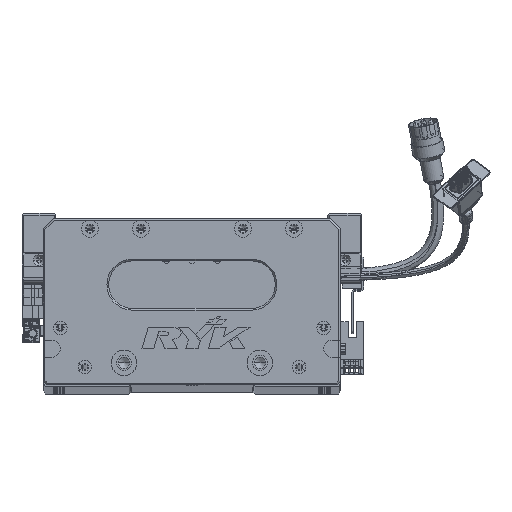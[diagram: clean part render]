
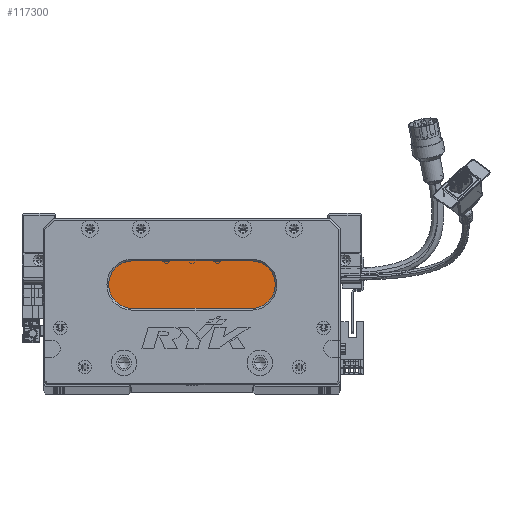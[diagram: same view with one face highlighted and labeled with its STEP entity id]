
A CAD part, top view. The second image highlights one B-rep face of the part: STEP entity #117300.
In plain terms, the highlighted planar face has unit normal (0, 0, 1) as drawn and (0, 0, -1) by its records, which use the part's own axes.
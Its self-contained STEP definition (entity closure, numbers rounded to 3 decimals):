
#1366 = VERTEX_POINT ( 'NONE', #68532 ) ;
#1863 = EDGE_CURVE ( 'NONE', #62695, #27814, #73790, .T. ) ;
#1899 = CARTESIAN_POINT ( 'NONE',  ( 122.5, 45., 18. ) ) ;
#2902 = VECTOR ( 'NONE', #48439, 1000. ) ;
#7960 = DIRECTION ( 'NONE',  ( -1., 0., 0. ) ) ;
#9712 = DIRECTION ( 'NONE',  ( -1., 0., 0. ) ) ;
#15660 = VECTOR ( 'NONE', #9712, 1000. ) ;
#17427 = DIRECTION ( 'NONE',  ( 0., 0., -1. ) ) ;
#18756 = AXIS2_PLACEMENT_3D ( 'NONE', #109269, #52184, #118874 ) ;
#20363 = CARTESIAN_POINT ( 'NONE',  ( 52.5, 73., 18. ) ) ;
#21050 = EDGE_CURVE ( 'NONE', #32450, #80066, #86011, .T. ) ;
#27121 = CARTESIAN_POINT ( 'NONE',  ( 122.5, 59., 18. ) ) ;
#27725 = EDGE_CURVE ( 'NONE', #27814, #32450, #116949, .T. ) ;
#27814 = VERTEX_POINT ( 'NONE', #82982 ) ;
#29514 = DIRECTION ( 'NONE',  ( -1., 0., 0. ) ) ;
#32450 = VERTEX_POINT ( 'NONE', #114046 ) ;
#42896 = AXIS2_PLACEMENT_3D ( 'NONE', #46635, #17427, #93709 ) ;
#45518 = PLANE ( 'NONE',  #81051 ) ;
#46008 = CARTESIAN_POINT ( 'NONE',  ( 122.5, 45., 18. ) ) ;
#46635 = CARTESIAN_POINT ( 'NONE',  ( 52.5, 59., 18. ) ) ;
#48439 = DIRECTION ( 'NONE',  ( 1., 0., 0. ) ) ;
#52184 = DIRECTION ( 'NONE',  ( 0., 0., -1. ) ) ;
#54512 = ORIENTED_EDGE ( 'NONE', *, *, #68293, .T. ) ;
#55517 = DIRECTION ( 'NONE',  ( 0., 0., -1. ) ) ;
#62695 = VERTEX_POINT ( 'NONE', #1899 ) ;
#68293 = EDGE_CURVE ( 'NONE', #80066, #1366, #120761, .T. ) ;
#68532 = CARTESIAN_POINT ( 'NONE',  ( 122.5, 73., 18. ) ) ;
#73790 = LINE ( 'NONE', #46008, #15660 ) ;
#75458 = EDGE_CURVE ( 'NONE', #1366, #62695, #89386, .T. ) ;
#75820 = CARTESIAN_POINT ( 'NONE',  ( 122.5, 59., 18. ) ) ;
#80066 = VERTEX_POINT ( 'NONE', #20363 ) ;
#81051 = AXIS2_PLACEMENT_3D ( 'NONE', #27121, #55517, #7960 ) ;
#82982 = CARTESIAN_POINT ( 'NONE',  ( 52.5, 45., 18. ) ) ;
#86011 = CIRCLE ( 'NONE', #42896, 14. ) ;
#87068 = DIRECTION ( 'NONE',  ( 0., 0., -1. ) ) ;
#89386 = CIRCLE ( 'NONE', #95038, 14. ) ;
#92718 = ORIENTED_EDGE ( 'NONE', *, *, #21050, .T. ) ;
#93709 = DIRECTION ( 'NONE',  ( -1., 0., 0. ) ) ;
#95038 = AXIS2_PLACEMENT_3D ( 'NONE', #75820, #87068, #29514 ) ;
#105201 = FACE_OUTER_BOUND ( 'NONE', #110074, .T. ) ;
#105531 = ORIENTED_EDGE ( 'NONE', *, *, #27725, .T. ) ;
#105532 = CARTESIAN_POINT ( 'NONE',  ( 122.5, 73., 18. ) ) ;
#106406 = ORIENTED_EDGE ( 'NONE', *, *, #1863, .T. ) ;
#109269 = CARTESIAN_POINT ( 'NONE',  ( 52.5, 59., 18. ) ) ;
#110074 = EDGE_LOOP ( 'NONE', ( #122719, #106406, #105531, #92718, #54512 ) ) ;
#114046 = CARTESIAN_POINT ( 'NONE',  ( 38.5, 59., 18. ) ) ;
#116949 = CIRCLE ( 'NONE', #18756, 14. ) ;
#117300 = ADVANCED_FACE ( 'NONE', ( #105201 ), #45518, .T. ) ;
#118874 = DIRECTION ( 'NONE',  ( -1., 0., 0. ) ) ;
#120761 = LINE ( 'NONE', #105532, #2902 ) ;
#122719 = ORIENTED_EDGE ( 'NONE', *, *, #75458, .T. ) ;
